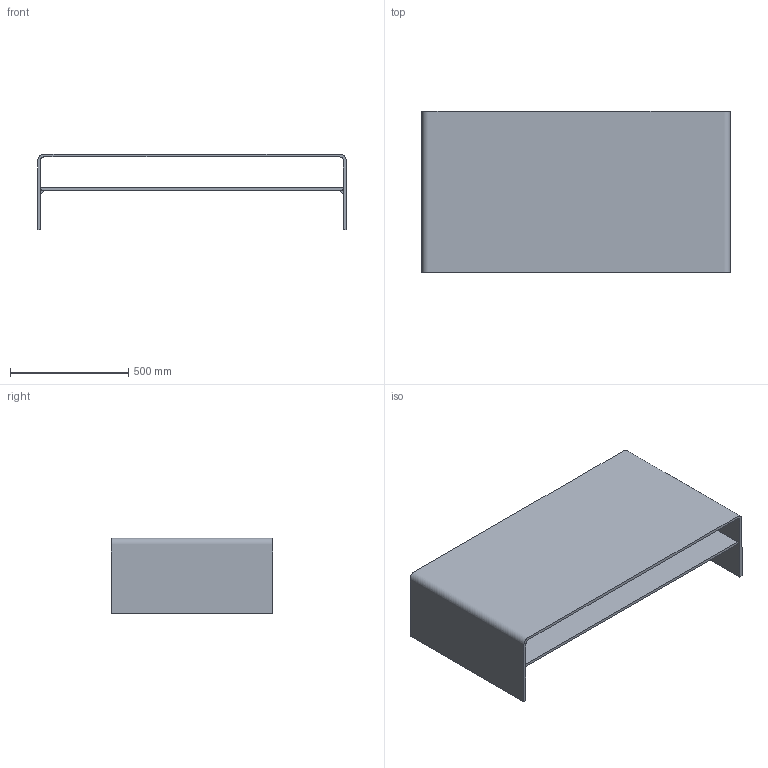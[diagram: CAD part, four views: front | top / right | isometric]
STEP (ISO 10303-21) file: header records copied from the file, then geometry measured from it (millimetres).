
FILE_DESCRIPTION(/* description */ (''),/* implementation_level */ '2;1');
FILE_NAME(/* name */ '0199 - Rialto Piano 130x68',/* time_stamp */ '2010-11-04T09:25:46+01:00',/* author */ (''),/* organization */ (''),/* preprocessor_version */ 'ST-DEVELOPER v10',/* originating_system */ '',/* authorisation */ '');
FILE_SCHEMA (('CONFIG_CONTROL_DESIGN'));
Length unit declared in the file: centimetre
Products named in the file (1): 1
Bounding box: 1302 x 680 x 320 mm (x, y, z)
Volume: 19462669.1 mm3; surface area: 4348415.7 mm2
Topology: 6 solids, 6 shells, 40 faces, 84 edges, 56 vertices
Faces by surface type: plane 38, bspline 2
Entity records: 1100 total; most frequent: CARTESIAN_POINT 376, ORIENTED_EDGE 168, EDGE_CURVE 84, B_SPLINE_CURVE_WITH_KNOTS 80, VERTEX_POINT 56, DIRECTION 42, ADVANCED_FACE 40, FACE_OUTER_BOUND 40
